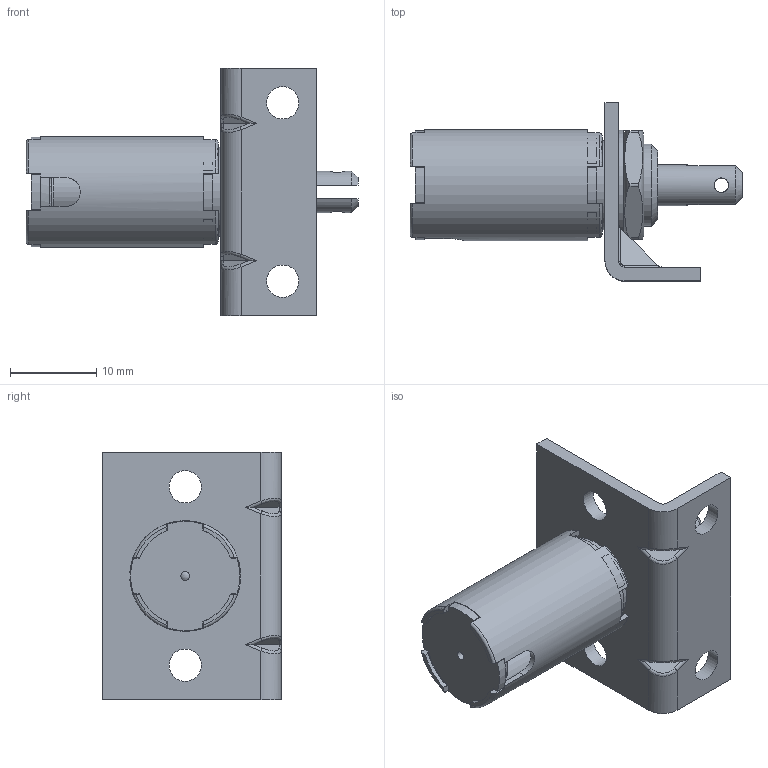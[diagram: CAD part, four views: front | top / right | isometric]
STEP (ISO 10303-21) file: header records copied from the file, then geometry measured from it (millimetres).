
FILE_DESCRIPTION((''),'2;1');
FILE_NAME('C:\Website 3D Models STP Files\MODEL T4x7.stp','2014-07-30T14:41:21',('Dennis'),(''),'Autodesk Inventor 2013','Autodesk Inventor 2013','');
FILE_SCHEMA(('AUTOMOTIVE_DESIGN { 1 0 10303 214 1 1 1 1 }'));
Length unit declared in the file: inch
Products named in the file (6): MODEL T4x7; A420-066004-00_Shrinkwrap_2; 104-000334-01; 164-291575-02; 146-220255-02; 154-000086-02
Assembly tree (5 placements, depth 2):
  MODEL T4x7
    A420-066004-00_Shrinkwrap_2
    104-000334-01
    164-291575-02
    146-220255-02
    154-000086-02
Bounding box: 38.4 x 20.62 x 28.57 mm (x, y, z)
Volume: 3288.2 mm3; surface area: 6567 mm2
Topology: 8 solids, 8 shells, 245 faces, 642 edges, 419 vertices
Faces by surface type: plane 126, cylinder 91, torus 14, bspline 8, cone 5, sphere 1
Full cylindrical faces by diameter (mm): 1.016 x1, 1.676 x2, 3.734 x4, 4.775 x1, 4.978 x1, 5.08 x1, 6.35 x1, 6.655 x1, 6.883 x1, 9.525 x2, 9.906 x1, 10.312 x1, 11.049 x2, 12.7 x1
Entity records: 8303 total; most frequent: CARTESIAN_POINT 2097, DIRECTION 1270, ORIENTED_EDGE 1220, EDGE_CURVE 610, AXIS2_PLACEMENT_3D 469, VERTEX_POINT 414, VECTOR 332, LINE 332
